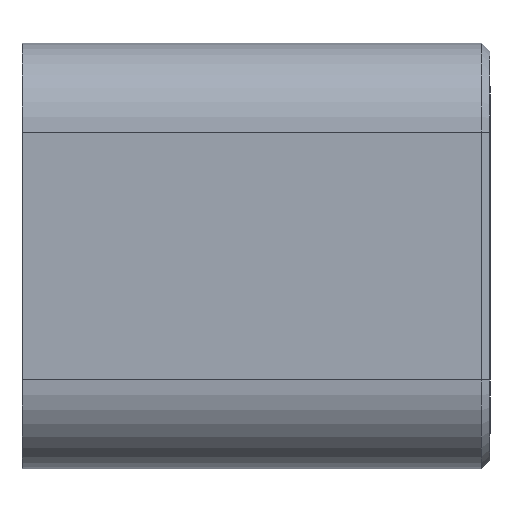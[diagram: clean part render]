
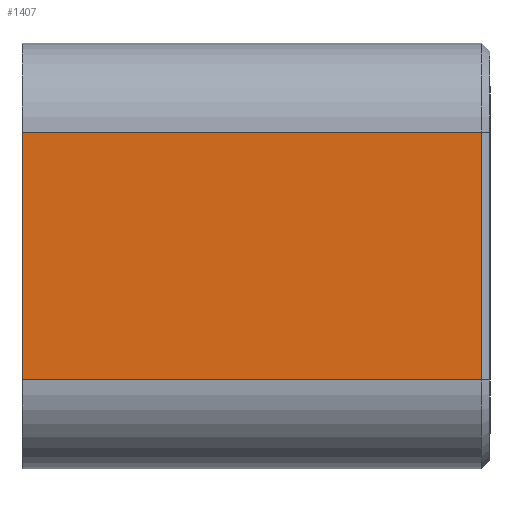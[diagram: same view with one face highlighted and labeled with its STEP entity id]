
A CAD part, left-side view. The second image highlights one B-rep face of the part: STEP entity #1407.
In plain terms, the highlighted planar face has unit normal (-1, 0, 0).
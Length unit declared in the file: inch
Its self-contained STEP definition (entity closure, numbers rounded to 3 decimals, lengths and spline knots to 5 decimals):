
#8 = LINE ( 'NONE', #546, #1066 ) ;
#24 = EDGE_CURVE ( 'NONE', #997, #1177, #404, .T. ) ;
#28 = CARTESIAN_POINT ( 'NONE',  ( -0.8625, 1.525, 0.75 ) ) ;
#44 = VERTEX_POINT ( 'NONE', #1162 ) ;
#74 = CARTESIAN_POINT ( 'NONE',  ( -0.8625, -0.095, 0.437 ) ) ;
#149 = DIRECTION ( 'NONE',  ( 0., 0., -1. ) ) ;
#159 = DIRECTION ( 'NONE',  ( 0., -1., 0. ) ) ;
#236 = CARTESIAN_POINT ( 'NONE',  ( -0.8625, -0.125, 0.437 ) ) ;
#239 = EDGE_CURVE ( 'NONE', #889, #997, #8, .T. ) ;
#264 = VECTOR ( 'NONE', #768, 39.37008 ) ;
#404 = LINE ( 'NONE', #1311, #906 ) ;
#444 = CARTESIAN_POINT ( 'NONE',  ( -0.8625, -0.125, 0.75 ) ) ;
#507 = LINE ( 'NONE', #236, #264 ) ;
#514 = EDGE_CURVE ( 'NONE', #1177, #44, #507, .T. ) ;
#546 = CARTESIAN_POINT ( 'NONE',  ( -0.8625, -0.125, -0.437 ) ) ;
#648 = DIRECTION ( 'NONE',  ( 0., 0., 1. ) ) ;
#698 = DIRECTION ( 'NONE',  ( 0., 0., 1. ) ) ;
#727 = ORIENTED_EDGE ( 'NONE', *, *, #514, .T. ) ;
#768 = DIRECTION ( 'NONE',  ( 0., 1., 0. ) ) ;
#775 = ORIENTED_EDGE ( 'NONE', *, *, #239, .T. ) ;
#828 = ORIENTED_EDGE ( 'NONE', *, *, #24, .T. ) ;
#889 = VERTEX_POINT ( 'NONE', #1330 ) ;
#906 = VECTOR ( 'NONE', #648, 39.37008 ) ;
#997 = VERTEX_POINT ( 'NONE', #1601 ) ;
#1066 = VECTOR ( 'NONE', #159, 39.37008 ) ;
#1162 = CARTESIAN_POINT ( 'NONE',  ( -0.8625, 1.525, 0.437 ) ) ;
#1177 = VERTEX_POINT ( 'NONE', #74 ) ;
#1223 = LINE ( 'NONE', #28, #1270 ) ;
#1270 = VECTOR ( 'NONE', #698, 39.37008 ) ;
#1311 = CARTESIAN_POINT ( 'NONE',  ( -0.8625, -0.095, 0.75 ) ) ;
#1328 = AXIS2_PLACEMENT_3D ( 'NONE', #444, #1633, #149 ) ;
#1330 = CARTESIAN_POINT ( 'NONE',  ( -0.8625, 1.525, -0.437 ) ) ;
#1387 = FACE_OUTER_BOUND ( 'NONE', #1457, .T. ) ;
#1407 = ADVANCED_FACE ( 'NONE', ( #1387 ), #1608, .F. ) ;
#1457 = EDGE_LOOP ( 'NONE', ( #775, #828, #727, #1626 ) ) ;
#1556 = EDGE_CURVE ( 'NONE', #889, #44, #1223, .T. ) ;
#1601 = CARTESIAN_POINT ( 'NONE',  ( -0.8625, -0.095, -0.437 ) ) ;
#1608 = PLANE ( 'NONE',  #1328 ) ;
#1626 = ORIENTED_EDGE ( 'NONE', *, *, #1556, .F. ) ;
#1633 = DIRECTION ( 'NONE',  ( 1., 0., 0. ) ) ;
